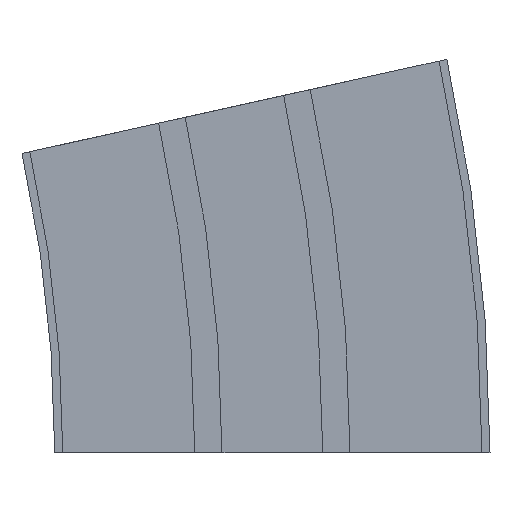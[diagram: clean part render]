
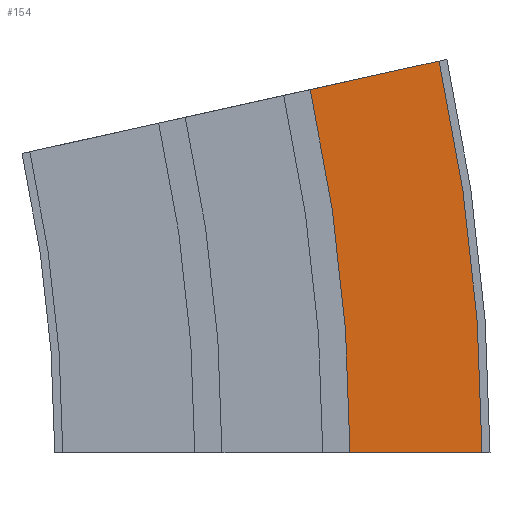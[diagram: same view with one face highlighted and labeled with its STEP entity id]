
A CAD part, left-side view. The second image highlights one B-rep face of the part: STEP entity #154.
In plain terms, the highlighted planar face has unit normal (-1, 0, 0).
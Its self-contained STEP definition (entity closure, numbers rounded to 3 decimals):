
#24 = AXIS2_PLACEMENT_3D ( 'NONE', #483, #484, #485 ) ;
#25 = AXIS2_PLACEMENT_3D ( 'NONE', #824, #710, #711 ) ;
#78 = AXIS2_PLACEMENT_3D ( 'NONE', #661, #666, #667 ) ;
#108 = CARTESIAN_POINT ( 'NONE',  ( -325.25, -11.823, 113.468 ) ) ;
#154 = ADVANCED_FACE ( 'NONE', ( #206 ), #660, .F. ) ;
#206 = FACE_OUTER_BOUND ( 'NONE', #277, .T. ) ;
#258 = VERTEX_POINT ( 'NONE', #108 ) ;
#277 = EDGE_LOOP ( 'NONE', ( #953, #952, #951, #950 ) ) ;
#483 = CARTESIAN_POINT ( 'NONE',  ( -325.25, 500., 0. ) ) ;
#484 = DIRECTION ( 'NONE',  ( 1., 0., 0. ) ) ;
#485 = DIRECTION ( 'NONE',  ( 0., 0., -1. ) ) ;
#486 = CARTESIAN_POINT ( 'NONE',  ( -325.25, -11.823, 113.468 ) ) ;
#487 = DIRECTION ( 'NONE',  ( 0., -0.976, 0.216 ) ) ;
#488 = CARTESIAN_POINT ( 'NONE',  ( -325.25, -24.25, 0. ) ) ;
#489 = DIRECTION ( 'NONE',  ( 0., -1., 0. ) ) ;
#571 = VECTOR ( 'NONE', #489, 1000. ) ;
#573 = VECTOR ( 'NONE', #487, 1000. ) ;
#574 = LINE ( 'NONE', #488, #571 ) ;
#577 = CIRCLE ( 'NONE', #24, 565.5 ) ;
#580 = LINE ( 'NONE', #486, #573 ) ;
#582 = CIRCLE ( 'NONE', #25, 524.25 ) ;
#660 = PLANE ( 'NONE',  #78 ) ;
#661 = CARTESIAN_POINT ( 'NONE',  ( -325.25, -11.823, 113.468 ) ) ;
#666 = DIRECTION ( 'NONE',  ( 1., 0., 0. ) ) ;
#667 = DIRECTION ( 'NONE',  ( 0., 0., -1. ) ) ;
#710 = DIRECTION ( 'NONE',  ( 1., 0., 0. ) ) ;
#711 = DIRECTION ( 'NONE',  ( 0., 0., -1. ) ) ;
#742 = EDGE_CURVE ( 'NONE', #258, #1022, #582, .T. ) ;
#745 = EDGE_CURVE ( 'NONE', #1020, #1019, #577, .T. ) ;
#746 = EDGE_CURVE ( 'NONE', #258, #1020, #580, .T. ) ;
#747 = EDGE_CURVE ( 'NONE', #1022, #1019, #574, .T. ) ;
#797 = CARTESIAN_POINT ( 'NONE',  ( -325.25, -65.5, 0. ) ) ;
#798 = CARTESIAN_POINT ( 'NONE',  ( -325.25, -52.095, 122.397 ) ) ;
#800 = CARTESIAN_POINT ( 'NONE',  ( -325.25, -24.25, 0. ) ) ;
#824 = CARTESIAN_POINT ( 'NONE',  ( -325.25, 500., 0. ) ) ;
#950 = ORIENTED_EDGE ( 'NONE', *, *, #747, .T. ) ;
#951 = ORIENTED_EDGE ( 'NONE', *, *, #742, .T. ) ;
#952 = ORIENTED_EDGE ( 'NONE', *, *, #746, .F. ) ;
#953 = ORIENTED_EDGE ( 'NONE', *, *, #745, .F. ) ;
#1019 = VERTEX_POINT ( 'NONE', #797 ) ;
#1020 = VERTEX_POINT ( 'NONE', #798 ) ;
#1022 = VERTEX_POINT ( 'NONE', #800 ) ;
